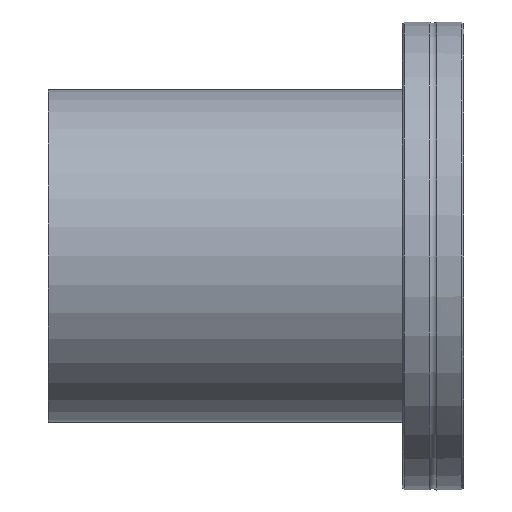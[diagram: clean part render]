
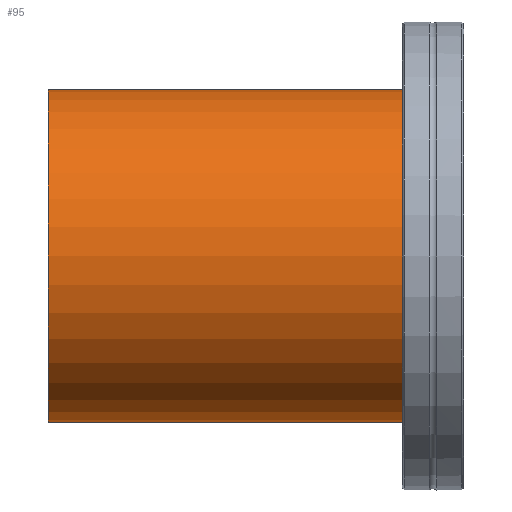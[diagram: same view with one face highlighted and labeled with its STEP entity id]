
A CAD part, front view. The second image highlights one B-rep face of the part: STEP entity #95.
In plain terms, the highlighted cylindrical face has radius 54 mm (diameter 108 mm), a full revolution.
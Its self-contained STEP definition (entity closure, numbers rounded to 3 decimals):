
#68=CARTESIAN_POINT('',(-135.,0.0,0.0));
#69=DIRECTION('',(1.0,0.0,0.0));
#70=DIRECTION('',(0.0,0.0,-1.0));
#71=AXIS2_PLACEMENT_3D('',#68,#69,#70);
#72=CYLINDRICAL_SURFACE('',#71,54.0);
#73=CARTESIAN_POINT('',(-11.,0.,54.0));
#74=VERTEX_POINT('',#73);
#75=CARTESIAN_POINT('',(-11.,0.0,0.0));
#76=DIRECTION('',(1.0,0.0,0.0));
#77=DIRECTION('',(0.0,0.0,-1.0));
#78=AXIS2_PLACEMENT_3D('',#75,#76,#77);
#79=CIRCLE('',#78,54.0);
#80=EDGE_CURVE('',#74,#74,#79,.T.);
#81=ORIENTED_EDGE('',*,*,#80,.F.);
#82=EDGE_LOOP('',(#81));
#83=FACE_OUTER_BOUND('',#82,.T.);
#84=CARTESIAN_POINT('',(-135.,0.,54.0));
#85=VERTEX_POINT('',#84);
#86=CARTESIAN_POINT('',(-135.,0.0,0.0));
#87=DIRECTION('',(-1.0,0.0,0.0));
#88=DIRECTION('',(0.0,0.0,-1.0));
#89=AXIS2_PLACEMENT_3D('',#86,#87,#88);
#90=CIRCLE('',#89,54.0);
#91=EDGE_CURVE('',#85,#85,#90,.T.);
#92=ORIENTED_EDGE('',*,*,#91,.F.);
#93=EDGE_LOOP('',(#92));
#94=FACE_BOUND('',#93,.T.);
#95=ADVANCED_FACE('',(#83,#94),#72,.T.);
